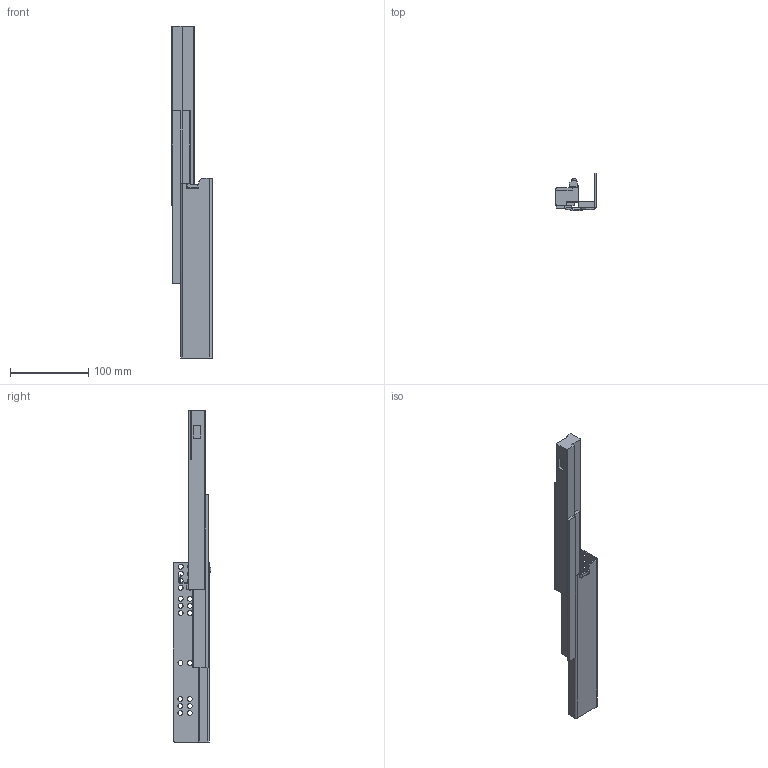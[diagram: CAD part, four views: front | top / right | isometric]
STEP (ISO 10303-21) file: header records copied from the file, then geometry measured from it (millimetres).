
FILE_DESCRIPTION (( 'STEP AP203' ), '1' );
FILE_NAME ('TF10250H-R-DTC3D-open.STEP', '2021-06-05T02:56:26', ( 'df' ), ( 'Microsoft' ), 'SwSTEP 2.0', 'SolidWorks 2018', '' );
FILE_SCHEMA (( 'CONFIG_CONTROL_DESIGN' ));
Length unit declared in the file: millimetre
Products named in the file (1): TF10250H-R-DTC3D-open
Bounding box: 51.73 x 48 x 424.3 mm (x, y, z)
Volume: 248230.4 mm3; surface area: 74904.1 mm2
Topology: 1 solids, 1 shells, 172 faces, 496 edges, 323 vertices
Faces by surface type: cylinder 91, plane 75, sphere 4, torus 2
Entity records: 5849 total; most frequent: CARTESIAN_POINT 1049, DIRECTION 1010, ORIENTED_EDGE 984, EDGE_CURVE 492, AXIS2_PLACEMENT_3D 360, VERTEX_POINT 323, VECTOR 290, LINE 290
